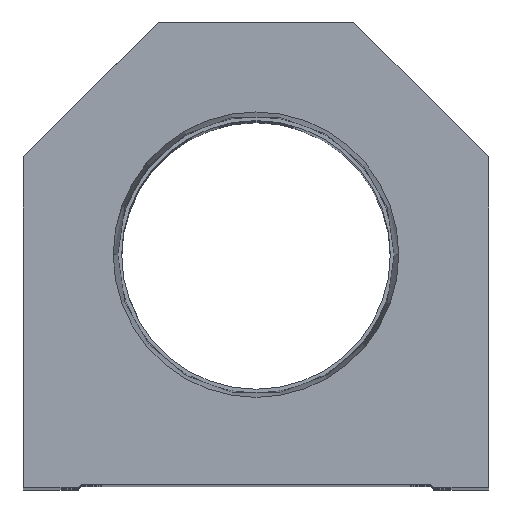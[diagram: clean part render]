
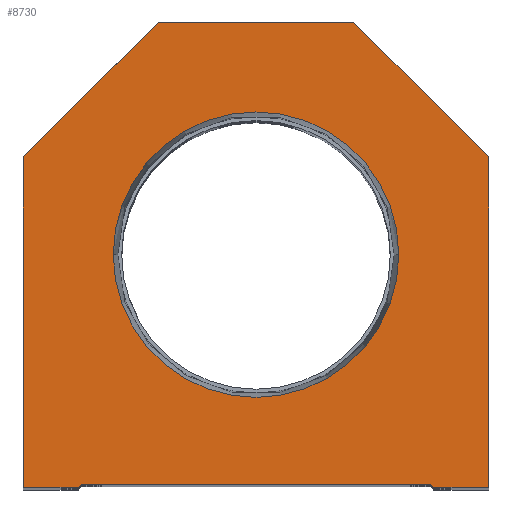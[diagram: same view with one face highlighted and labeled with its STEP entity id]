
A CAD part, top view. The second image highlights one B-rep face of the part: STEP entity #8730.
In plain terms, the highlighted planar face has unit normal (0, 0, 1).
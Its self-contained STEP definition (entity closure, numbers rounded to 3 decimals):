
#119 = EDGE_CURVE ( 'NONE', #19321, #7306, #4231, .T. ) ;
#274 = DIRECTION ( 'NONE',  ( 0., 0., 1. ) ) ;
#403 = ORIENTED_EDGE ( 'NONE', *, *, #119, .T. ) ;
#574 = VECTOR ( 'NONE', #6837, 1000. ) ;
#888 = VECTOR ( 'NONE', #19077, 1000. ) ;
#1321 = CARTESIAN_POINT ( 'NONE',  ( -28.6, 0., 0. ) ) ;
#1525 = EDGE_CURVE ( 'NONE', #7306, #6609, #10600, .T. ) ;
#1564 = ORIENTED_EDGE ( 'NONE', *, *, #1783, .T. ) ;
#1783 = EDGE_CURVE ( 'NONE', #6609, #15131, #6964, .T. ) ;
#1831 = CIRCLE ( 'NONE', #6888, 23.374 ) ;
#1887 = FACE_OUTER_BOUND ( 'NONE', #7151, .T. ) ;
#1933 = ORIENTED_EDGE ( 'NONE', *, *, #17609, .T. ) ;
#2437 = CARTESIAN_POINT ( 'NONE',  ( -38.1, 0., 0. ) ) ;
#3419 = VECTOR ( 'NONE', #16403, 1000. ) ;
#3462 = DIRECTION ( 'NONE',  ( 1., 0., 0. ) ) ;
#3546 = CARTESIAN_POINT ( 'NONE',  ( -23.374, 38.1, 0. ) ) ;
#3657 = FACE_BOUND ( 'NONE', #12684, .T. ) ;
#4019 = CARTESIAN_POINT ( 'NONE',  ( 38.1, 0., 0. ) ) ;
#4028 = AXIS2_PLACEMENT_3D ( 'NONE', #14335, #10861, #3462 ) ;
#4231 = LINE ( 'NONE', #2437, #888 ) ;
#4569 = ORIENTED_EDGE ( 'NONE', *, *, #5063, .F. ) ;
#4634 = ORIENTED_EDGE ( 'NONE', *, *, #1525, .T. ) ;
#5063 = EDGE_CURVE ( 'NONE', #12836, #12442, #5837, .T. ) ;
#5075 = VERTEX_POINT ( 'NONE', #4019 ) ;
#5458 = CARTESIAN_POINT ( 'NONE',  ( 16., 76.2, 0. ) ) ;
#5510 = CARTESIAN_POINT ( 'NONE',  ( 38.1, 0., 0. ) ) ;
#5693 = LINE ( 'NONE', #11895, #15361 ) ;
#5837 = CIRCLE ( 'NONE', #14772, 23.374 ) ;
#5838 = LINE ( 'NONE', #19282, #12012 ) ;
#5881 = DIRECTION ( 'NONE',  ( 1., 0., 0. ) ) ;
#6205 = ORIENTED_EDGE ( 'NONE', *, *, #12757, .T. ) ;
#6288 = VERTEX_POINT ( 'NONE', #6536 ) ;
#6536 = CARTESIAN_POINT ( 'NONE',  ( -16., 76.2, 0. ) ) ;
#6609 = VERTEX_POINT ( 'NONE', #19565 ) ;
#6610 = LINE ( 'NONE', #9918, #15667 ) ;
#6817 = DIRECTION ( 'NONE',  ( 0.707, -0.707, 0. ) ) ;
#6837 = DIRECTION ( 'NONE',  ( 1., 0., 0. ) ) ;
#6888 = AXIS2_PLACEMENT_3D ( 'NONE', #18809, #18901, #11337 ) ;
#6964 = LINE ( 'NONE', #16056, #11828 ) ;
#7151 = EDGE_LOOP ( 'NONE', ( #4634, #1564, #1933, #9271, #9942, #17906, #6205, #15399, #15045, #403 ) ) ;
#7306 = VERTEX_POINT ( 'NONE', #19570 ) ;
#7402 = CARTESIAN_POINT ( 'NONE',  ( 16., 76.2, 0. ) ) ;
#7524 = CARTESIAN_POINT ( 'NONE',  ( 29.1, 0., 0. ) ) ;
#7716 = ORIENTED_EDGE ( 'NONE', *, *, #12743, .F. ) ;
#7861 = CARTESIAN_POINT ( 'NONE',  ( 0., 38.1, 0. ) ) ;
#8261 = PLANE ( 'NONE',  #4028 ) ;
#8394 = VECTOR ( 'NONE', #12108, 1000. ) ;
#8654 = DIRECTION ( 'NONE',  ( -0.707, 0.707, 0. ) ) ;
#8713 = LINE ( 'NONE', #7402, #8394 ) ;
#8730 = ADVANCED_FACE ( 'NONE', ( #3657, #1887 ), #8261, .T. ) ;
#9170 = VECTOR ( 'NONE', #6817, 1000. ) ;
#9271 = ORIENTED_EDGE ( 'NONE', *, *, #12854, .T. ) ;
#9918 = CARTESIAN_POINT ( 'NONE',  ( -28.6, 0.5, 0. ) ) ;
#9942 = ORIENTED_EDGE ( 'NONE', *, *, #13522, .T. ) ;
#10600 = LINE ( 'NONE', #1321, #15961 ) ;
#10725 = CARTESIAN_POINT ( 'NONE',  ( 28.6, 0.5, 0. ) ) ;
#10861 = DIRECTION ( 'NONE',  ( 0., 0., 1. ) ) ;
#11069 = CARTESIAN_POINT ( 'NONE',  ( -28.6, 0.5, 0. ) ) ;
#11301 = DIRECTION ( 'NONE',  ( 1., 0., 0. ) ) ;
#11337 = DIRECTION ( 'NONE',  ( 1., 0., 0. ) ) ;
#11594 = LINE ( 'NONE', #5510, #3419 ) ;
#11658 = DIRECTION ( 'NONE',  ( 0.707, 0.707, 0. ) ) ;
#11828 = VECTOR ( 'NONE', #11658, 1000. ) ;
#11865 = CARTESIAN_POINT ( 'NONE',  ( 23.374, 38.1, 0. ) ) ;
#11895 = CARTESIAN_POINT ( 'NONE',  ( -38.1, 54.1, 0. ) ) ;
#12012 = VECTOR ( 'NONE', #8654, 1000. ) ;
#12108 = DIRECTION ( 'NONE',  ( -1., 0., 0. ) ) ;
#12315 = VERTEX_POINT ( 'NONE', #5458 ) ;
#12359 = DIRECTION ( 'NONE',  ( 1., 0., 0. ) ) ;
#12442 = VERTEX_POINT ( 'NONE', #11865 ) ;
#12684 = EDGE_LOOP ( 'NONE', ( #7716, #4569 ) ) ;
#12743 = EDGE_CURVE ( 'NONE', #12442, #12836, #1831, .T. ) ;
#12757 = EDGE_CURVE ( 'NONE', #17684, #12315, #5838, .T. ) ;
#12836 = VERTEX_POINT ( 'NONE', #3546 ) ;
#12854 = EDGE_CURVE ( 'NONE', #18314, #13812, #17478, .T. ) ;
#12896 = EDGE_CURVE ( 'NONE', #5075, #17684, #11594, .T. ) ;
#13389 = CARTESIAN_POINT ( 'NONE',  ( 38.1, 54.1, 0. ) ) ;
#13396 = CARTESIAN_POINT ( 'NONE',  ( -38.1, 54.1, 0. ) ) ;
#13522 = EDGE_CURVE ( 'NONE', #13812, #5075, #17500, .T. ) ;
#13812 = VERTEX_POINT ( 'NONE', #7524 ) ;
#14335 = CARTESIAN_POINT ( 'NONE',  ( 0., 0., 0. ) ) ;
#14772 = AXIS2_PLACEMENT_3D ( 'NONE', #7861, #274, #12359 ) ;
#15045 = ORIENTED_EDGE ( 'NONE', *, *, #17692, .T. ) ;
#15131 = VERTEX_POINT ( 'NONE', #11069 ) ;
#15361 = VECTOR ( 'NONE', #16179, 1000. ) ;
#15399 = ORIENTED_EDGE ( 'NONE', *, *, #18597, .T. ) ;
#15667 = VECTOR ( 'NONE', #11301, 1000. ) ;
#15961 = VECTOR ( 'NONE', #5881, 1000. ) ;
#16056 = CARTESIAN_POINT ( 'NONE',  ( -14.55, 14.55, 0. ) ) ;
#16179 = DIRECTION ( 'NONE',  ( -0.707, -0.707, 0. ) ) ;
#16403 = DIRECTION ( 'NONE',  ( 0., 1., 0. ) ) ;
#17296 = CARTESIAN_POINT ( 'NONE',  ( 14.55, 14.55, 0. ) ) ;
#17478 = LINE ( 'NONE', #17296, #9170 ) ;
#17500 = LINE ( 'NONE', #18708, #574 ) ;
#17609 = EDGE_CURVE ( 'NONE', #15131, #18314, #6610, .T. ) ;
#17684 = VERTEX_POINT ( 'NONE', #13389 ) ;
#17692 = EDGE_CURVE ( 'NONE', #6288, #19321, #5693, .T. ) ;
#17906 = ORIENTED_EDGE ( 'NONE', *, *, #12896, .T. ) ;
#18314 = VERTEX_POINT ( 'NONE', #10725 ) ;
#18597 = EDGE_CURVE ( 'NONE', #12315, #6288, #8713, .T. ) ;
#18708 = CARTESIAN_POINT ( 'NONE',  ( 28.6, 0., 0. ) ) ;
#18809 = CARTESIAN_POINT ( 'NONE',  ( 0., 38.1, 0. ) ) ;
#18901 = DIRECTION ( 'NONE',  ( 0., 0., 1. ) ) ;
#19077 = DIRECTION ( 'NONE',  ( 0., -1., 0. ) ) ;
#19282 = CARTESIAN_POINT ( 'NONE',  ( 38.1, 54.1, 0. ) ) ;
#19321 = VERTEX_POINT ( 'NONE', #13396 ) ;
#19565 = CARTESIAN_POINT ( 'NONE',  ( -29.1, 0., 0. ) ) ;
#19570 = CARTESIAN_POINT ( 'NONE',  ( -38.1, 0., 0. ) ) ;
